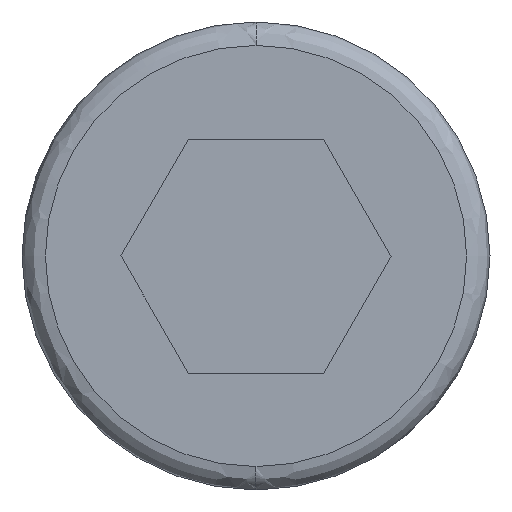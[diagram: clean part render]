
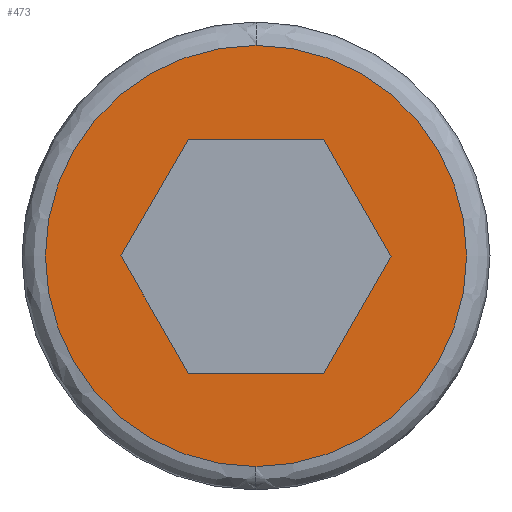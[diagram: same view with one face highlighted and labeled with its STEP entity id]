
A CAD part, left-side view. The second image highlights one B-rep face of the part: STEP entity #473.
In plain terms, the highlighted planar face has unit normal (-1, 0, 0).
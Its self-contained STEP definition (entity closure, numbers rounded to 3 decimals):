
#10 = LINE ( 'NONE', #409, #323 ) ;
#59 = CIRCLE ( 'NONE', #508, 4.5 ) ;
#67 = LINE ( 'NONE', #817, #378 ) ;
#82 = CARTESIAN_POINT ( 'NONE',  ( -6., 2.887, 0. ) ) ;
#91 = AXIS2_PLACEMENT_3D ( 'NONE', #602, #202, #372 ) ;
#104 = EDGE_CURVE ( 'NONE', #498, #749, #10, .T. ) ;
#122 = LINE ( 'NONE', #459, #858 ) ;
#125 = CARTESIAN_POINT ( 'NONE',  ( -6., 2.807, 0.138 ) ) ;
#139 = LINE ( 'NONE', #152, #307 ) ;
#144 = CARTESIAN_POINT ( 'NONE',  ( -6., 1.443, 2.5 ) ) ;
#152 = CARTESIAN_POINT ( 'NONE',  ( -6., 2.085, -1.388 ) ) ;
#181 = CARTESIAN_POINT ( 'NONE',  ( -6., 1.443, -2.5 ) ) ;
#202 = DIRECTION ( 'NONE',  ( 1., 0., 0. ) ) ;
#205 = CARTESIAN_POINT ( 'NONE',  ( -6., -1.443, -2.5 ) ) ;
#209 = VERTEX_POINT ( 'NONE', #181 ) ;
#240 = CARTESIAN_POINT ( 'NONE',  ( -6., 0., -4.5 ) ) ;
#273 = DIRECTION ( 'NONE',  ( 0., 0.5, -0.866 ) ) ;
#281 = AXIS2_PLACEMENT_3D ( 'NONE', #769, #449, #777 ) ;
#294 = ORIENTED_EDGE ( 'NONE', *, *, #104, .T. ) ;
#307 = VECTOR ( 'NONE', #408, 1000. ) ;
#308 = CARTESIAN_POINT ( 'NONE',  ( -6., -1.523, 2.362 ) ) ;
#311 = ORIENTED_EDGE ( 'NONE', *, *, #666, .F. ) ;
#319 = CARTESIAN_POINT ( 'NONE',  ( -6., -1.443, 2.5 ) ) ;
#323 = VECTOR ( 'NONE', #273, 1000. ) ;
#332 = EDGE_CURVE ( 'NONE', #749, #209, #122, .T. ) ;
#354 = EDGE_CURVE ( 'NONE', #764, #807, #657, .T. ) ;
#367 = ORIENTED_EDGE ( 'NONE', *, *, #332, .T. ) ;
#372 = DIRECTION ( 'NONE',  ( 0., 1., 0. ) ) ;
#378 = VECTOR ( 'NONE', #809, 1000. ) ;
#380 = DIRECTION ( 'NONE',  ( 0., -0.5, -0.866 ) ) ;
#408 = DIRECTION ( 'NONE',  ( 0., 0.5, 0.866 ) ) ;
#409 = CARTESIAN_POINT ( 'NONE',  ( -6., -2.245, -1.112 ) ) ;
#443 = EDGE_CURVE ( 'NONE', #560, #498, #650, .T. ) ;
#449 = DIRECTION ( 'NONE',  ( -1., 0., 0. ) ) ;
#455 = VERTEX_POINT ( 'NONE', #240 ) ;
#458 = ORIENTED_EDGE ( 'NONE', *, *, #354, .T. ) ;
#459 = CARTESIAN_POINT ( 'NONE',  ( -6., 0.403, -2.5 ) ) ;
#473 = ADVANCED_FACE ( 'NONE', ( #572, #840 ), #506, .T. ) ;
#498 = VERTEX_POINT ( 'NONE', #580 ) ;
#506 = PLANE ( 'NONE',  #281 ) ;
#508 = AXIS2_PLACEMENT_3D ( 'NONE', #824, #763, #672 ) ;
#510 = EDGE_LOOP ( 'NONE', ( #547, #294, #367, #689, #458, #706 ) ) ;
#522 = DIRECTION ( 'NONE',  ( 0., 1., 0. ) ) ;
#547 = ORIENTED_EDGE ( 'NONE', *, *, #443, .T. ) ;
#560 = VERTEX_POINT ( 'NONE', #319 ) ;
#572 = FACE_OUTER_BOUND ( 'NONE', #632, .T. ) ;
#573 = VECTOR ( 'NONE', #380, 1000. ) ;
#576 = ORIENTED_EDGE ( 'NONE', *, *, #718, .F. ) ;
#580 = CARTESIAN_POINT ( 'NONE',  ( -6., -2.887, 0. ) ) ;
#602 = CARTESIAN_POINT ( 'NONE',  ( -6., 0., 0. ) ) ;
#632 = EDGE_LOOP ( 'NONE', ( #576, #311 ) ) ;
#650 = LINE ( 'NONE', #308, #573 ) ;
#653 = DIRECTION ( 'NONE',  ( 0., -0.5, 0.866 ) ) ;
#657 = LINE ( 'NONE', #125, #793 ) ;
#666 = EDGE_CURVE ( 'NONE', #767, #455, #59, .T. ) ;
#672 = DIRECTION ( 'NONE',  ( 0., 1., 0. ) ) ;
#683 = CARTESIAN_POINT ( 'NONE',  ( -6., 0., 4.5 ) ) ;
#689 = ORIENTED_EDGE ( 'NONE', *, *, #806, .T. ) ;
#706 = ORIENTED_EDGE ( 'NONE', *, *, #827, .T. ) ;
#718 = EDGE_CURVE ( 'NONE', #455, #767, #727, .T. ) ;
#727 = CIRCLE ( 'NONE', #91, 4.5 ) ;
#749 = VERTEX_POINT ( 'NONE', #205 ) ;
#763 = DIRECTION ( 'NONE',  ( 1., 0., 0. ) ) ;
#764 = VERTEX_POINT ( 'NONE', #82 ) ;
#767 = VERTEX_POINT ( 'NONE', #683 ) ;
#769 = CARTESIAN_POINT ( 'NONE',  ( -6., 2.25, 0. ) ) ;
#777 = DIRECTION ( 'NONE',  ( 0., 0., 1. ) ) ;
#793 = VECTOR ( 'NONE', #653, 1000. ) ;
#806 = EDGE_CURVE ( 'NONE', #209, #764, #139, .T. ) ;
#807 = VERTEX_POINT ( 'NONE', #144 ) ;
#809 = DIRECTION ( 'NONE',  ( 0., -1., 0. ) ) ;
#817 = CARTESIAN_POINT ( 'NONE',  ( -6., 1.847, 2.5 ) ) ;
#824 = CARTESIAN_POINT ( 'NONE',  ( -6., 0., 0. ) ) ;
#827 = EDGE_CURVE ( 'NONE', #807, #560, #67, .T. ) ;
#840 = FACE_BOUND ( 'NONE', #510, .T. ) ;
#858 = VECTOR ( 'NONE', #522, 1000. ) ;
